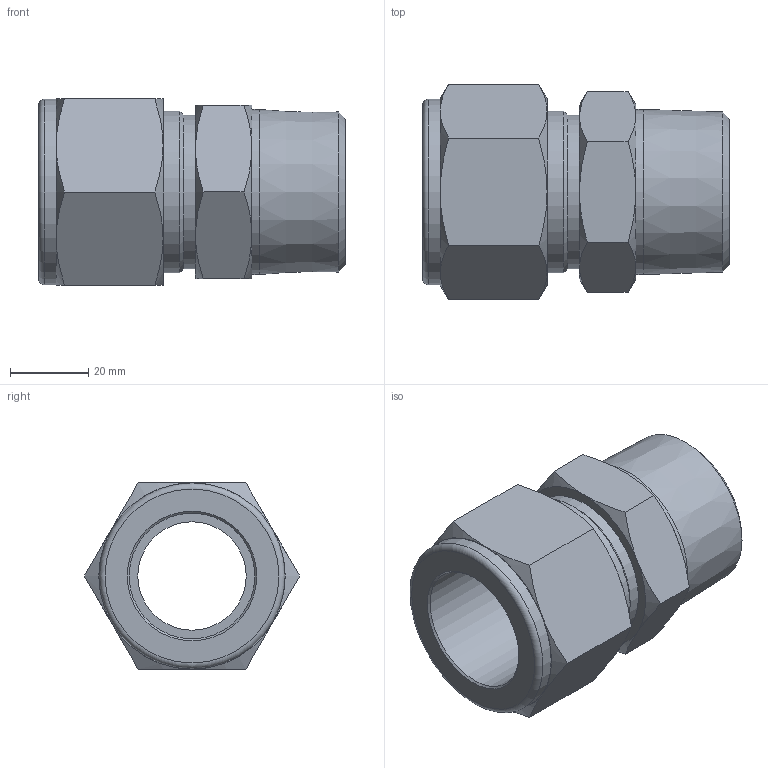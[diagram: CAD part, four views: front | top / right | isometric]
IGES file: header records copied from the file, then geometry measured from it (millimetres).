
Global section: file name: No Iges File Name specified; native system: Autodesk Inventor 2012; preprocessor: AutoDesk Inventor Iges Exporter R2012; author: 硅己绕,,1; organization: 1; date: 20150603.093534; units: millimetre
Bounding box: 78.38 x 54.99 x 47.62 mm (x, y, z)
Volume: 72555.3 mm3; surface area: 21894.7 mm2
Topology: 1 solids, 1 shells, 45 faces, 93 edges, 55 vertices
Faces by surface type: plane 19, cone 17, cylinder 4, revolution 4, torus 1
Full cylindrical faces by diameter (mm): 39.3 x1, 41.27 x1, 42.16 x1, 47.4 x1
